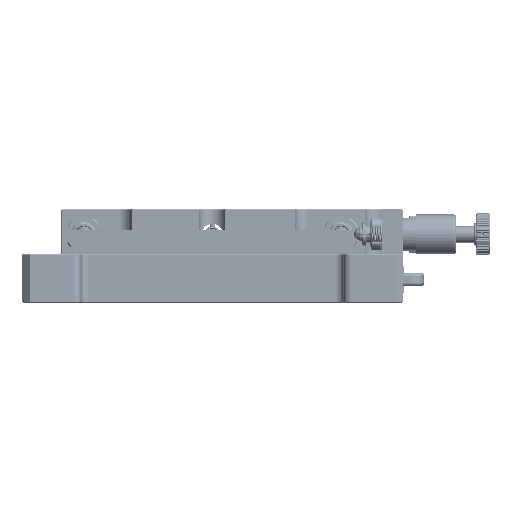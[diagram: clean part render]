
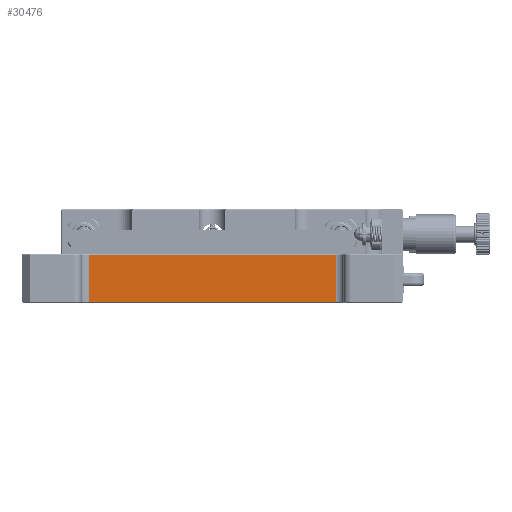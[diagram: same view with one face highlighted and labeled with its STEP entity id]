
A CAD part, front view. The second image highlights one B-rep face of the part: STEP entity #30476.
In plain terms, the highlighted planar face has unit normal (0, -1, 0).
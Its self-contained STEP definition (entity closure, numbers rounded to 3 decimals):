
#69 = VECTOR ( 'NONE', #16585, 1000. ) ;
#1691 = ORIENTED_EDGE ( 'NONE', *, *, #3245, .T. ) ;
#2169 = DIRECTION ( 'NONE',  ( 0., 1., 0. ) ) ;
#2474 = VERTEX_POINT ( 'NONE', #39424 ) ;
#3245 = EDGE_CURVE ( 'NONE', #2474, #33018, #47763, .T. ) ;
#4536 = CARTESIAN_POINT ( 'NONE',  ( -47., -60.5, 0. ) ) ;
#6263 = CARTESIAN_POINT ( 'NONE',  ( 47., -60.5, 0.3 ) ) ;
#9808 = LINE ( 'NONE', #35370, #19039 ) ;
#11660 = CARTESIAN_POINT ( 'NONE',  ( 47., -60.5, 18.5 ) ) ;
#14739 = EDGE_CURVE ( 'NONE', #33018, #21628, #9808, .T. ) ;
#15166 = CARTESIAN_POINT ( 'NONE',  ( -47., -60.5, 18.2 ) ) ;
#15526 = CARTESIAN_POINT ( 'NONE',  ( -47., -60.5, 0.3 ) ) ;
#16058 = ORIENTED_EDGE ( 'NONE', *, *, #14739, .T. ) ;
#16585 = DIRECTION ( 'NONE',  ( 0., 0., 1. ) ) ;
#16758 = EDGE_CURVE ( 'NONE', #21584, #2474, #25349, .T. ) ;
#18691 = EDGE_LOOP ( 'NONE', ( #38117, #43981, #1691, #16058 ) ) ;
#19039 = VECTOR ( 'NONE', #48312, 1000. ) ;
#19632 = FACE_OUTER_BOUND ( 'NONE', #18691, .T. ) ;
#21570 = LINE ( 'NONE', #4536, #27351 ) ;
#21584 = VERTEX_POINT ( 'NONE', #15526 ) ;
#21628 = VERTEX_POINT ( 'NONE', #15166 ) ;
#25349 = LINE ( 'NONE', #6263, #29864 ) ;
#27156 = CARTESIAN_POINT ( 'NONE',  ( -50., -60.5, 0. ) ) ;
#27351 = VECTOR ( 'NONE', #42005, 1000. ) ;
#29864 = VECTOR ( 'NONE', #39902, 1000. ) ;
#30476 = ADVANCED_FACE ( 'NONE', ( #19632 ), #39453, .F. ) ;
#33018 = VERTEX_POINT ( 'NONE', #52921 ) ;
#35370 = CARTESIAN_POINT ( 'NONE',  ( -50., -60.5, 18.2 ) ) ;
#36844 = EDGE_CURVE ( 'NONE', #21628, #21584, #21570, .T. ) ;
#38117 = ORIENTED_EDGE ( 'NONE', *, *, #36844, .T. ) ;
#39424 = CARTESIAN_POINT ( 'NONE',  ( 47., -60.5, 0.3 ) ) ;
#39453 = PLANE ( 'NONE',  #49106 ) ;
#39902 = DIRECTION ( 'NONE',  ( 1., 0., 0. ) ) ;
#42005 = DIRECTION ( 'NONE',  ( 0., 0., -1. ) ) ;
#43981 = ORIENTED_EDGE ( 'NONE', *, *, #16758, .T. ) ;
#47763 = LINE ( 'NONE', #11660, #69 ) ;
#47994 = DIRECTION ( 'NONE',  ( -1., 0., 0. ) ) ;
#48312 = DIRECTION ( 'NONE',  ( -1., 0., 0. ) ) ;
#49106 = AXIS2_PLACEMENT_3D ( 'NONE', #27156, #2169, #47994 ) ;
#52921 = CARTESIAN_POINT ( 'NONE',  ( 47., -60.5, 18.2 ) ) ;
